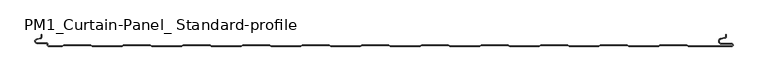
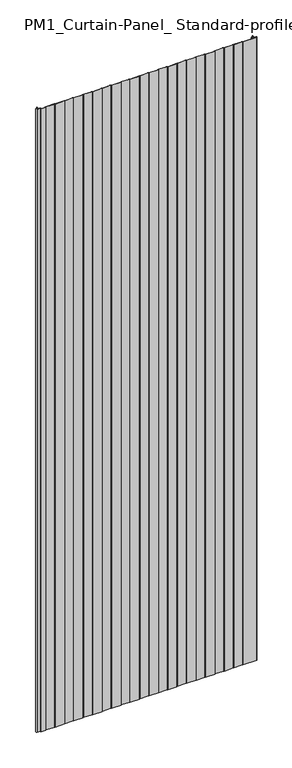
"""IFC4 building model written with IfcOpenShell, lengths in millimetres: plate geometry, PM1_Curtain-Panel_ Standard-profile : ACH_PM1_Acoustic-Sectioning-Panel_60M."""

import ifcopenshell
import ifcopenshell.guid

model = None  # the IFC model being written
_history = None  # IfcOwnerHistory: only IFC2X3 demands one
_inside = {}  # id of a spatial element -> (the spatial element, [elements in it])
_under = {}  # id of a project, library or spatial element -> (it, [spatial elements below it])
_declared = {}  # id of a project -> (the project, [libraries it declares])
_typed = {}  # id of a type object -> (the type object, [elements of that type])
_made_of = {}  # id of a material, layer set ... -> (it, [elements and type objects made of it])


def new_model(schema):
    """Start an empty IFC model of exactly this schema.

    Asked for "IFC4X3", IfcOpenShell would pick the latest addendum, in which some entities
    have other attributes; the version numbers below select the first issue.
    IFC2X3 requires an IfcOwnerHistory on every rooted entity: one is made here for all.
    """
    global model, _history
    if schema == "IFC4X3":
        model = ifcopenshell.file(schema_version=(4, 3, 0, 0))
    else:
        model = ifcopenshell.file(schema=schema)
    _inside.clear()
    _under.clear()
    _declared.clear()
    _typed.clear()
    _made_of.clear()
    _history = None
    if model.schema == "IFC2X3":
        org = make("IfcOrganization", Name="unknown")
        user = make(
            "IfcPersonAndOrganization",
            ThePerson=make("IfcPerson", FamilyName="unknown"),
            TheOrganization=org,
        )
        app = make(
            "IfcApplication",
            ApplicationDeveloper=org,
            Version="unknown",
            ApplicationFullName="unknown",
            ApplicationIdentifier="unknown",
        )
        _history = make(
            "IfcOwnerHistory",
            OwningUser=user,
            OwningApplication=app,
            ChangeAction="ADDED",
            CreationDate=0,
        )
    return model


def make(cls, **values):
    """One entity of the class cls with the attributes given. An attribute that is None is left unset."""
    return model.create_entity(
        cls, **{name: value for name, value in values.items() if value is not None}
    )


def rooted(cls, **values):
    """An entity with a GlobalId (a new one), such as an element, a storey or a relation."""
    return make(cls, GlobalId=ifcopenshell.guid.new(), OwnerHistory=_history, **values)


def si_unit(unit_type, name, prefix=None):
    """IfcSIUnit, for example si_unit("LENGTHUNIT", "METRE", prefix="MILLI")."""
    return make("IfcSIUnit", UnitType=unit_type, Prefix=prefix, Name=name)


def assignment(units):
    """IfcUnitAssignment: the units of a project."""
    return None if units is None else make("IfcUnitAssignment", Units=units)


def point(xyz):
    """IfcCartesianPoint."""
    return None if xyz is None else make("IfcCartesianPoint", Coordinates=xyz)


def direction(xyz):
    """IfcDirection."""
    return None if xyz is None else make("IfcDirection", DirectionRatios=xyz)


def frame(location, z_axis=None, x_axis=None):
    """IfcAxis2Placement3D, a coordinate frame: its origin and axes. An axis left out is left unset."""
    return make(
        "IfcAxis2Placement3D",
        Location=point(location),
        Axis=direction(z_axis),
        RefDirection=direction(x_axis),
    )


def origin():
    """The frame at (0, 0, 0) with its axes left unset."""
    return frame((0.0, 0.0, 0.0))


def place(relative_to, where):
    """IfcLocalPlacement: puts the frame where relative to a parent placement (None: the world)."""
    return make(
        "IfcLocalPlacement", PlacementRelTo=relative_to, RelativePlacement=where
    )


def context(
    kind, dimensions, precision=None, world=None, true_north=None, identifier=None
):
    """IfcGeometricRepresentationContext, for example the 3D "Model" context."""
    return make(
        "IfcGeometricRepresentationContext",
        ContextIdentifier=identifier,
        ContextType=kind,
        CoordinateSpaceDimension=dimensions,
        Precision=precision,
        WorldCoordinateSystem=world,
        TrueNorth=true_north,
    )


def project(units=None, contexts=None):
    """IfcProject with its units and contexts."""
    return rooted(
        "IfcProject",
        Name="project",
        RepresentationContexts=contexts,
        UnitsInContext=assignment(units),
    )


def spatial(cls, under=None, at=None, **own):
    """A site, building, storey or space (cls), placed at a placement, below another one or the project."""
    s = rooted(cls, ObjectPlacement=at, **own)
    if under is not None:
        _under.setdefault(under.id(), (under, []))[1].append(s)
    return s


def polyline(points):
    """IfcPolyline through the points."""
    return make("IfcPolyline", Points=[point(p) for p in points])


def circle_curve(where, radius):
    """IfcCircle in the frame where."""
    return make("IfcCircle", Position=where, Radius=radius)


def shape(context_of_items, identifier, shape_type, items):
    """IfcShapeRepresentation: the items that make up one representation, for example the "Body"."""
    return make(
        "IfcShapeRepresentation",
        ContextOfItems=context_of_items,
        RepresentationIdentifier=identifier,
        RepresentationType=shape_type,
        Items=items,
    )


def source(mapping_origin, context_of_items, identifier, shape_type, items):
    """IfcRepresentationMap: a shape defined once, which mapped items show again and again."""
    return make(
        "IfcRepresentationMap",
        MappingOrigin=mapping_origin,
        MappedRepresentation=shape(context_of_items, identifier, shape_type, items),
    )


def transform(
    local_origin,
    x_axis=None,
    y_axis=None,
    z_axis=None,
    scale=None,
    scale2=None,
    scale3=None,
    uniform=True,
):
    """IfcCartesianTransformationOperator3D, or its non-uniform kind. x_axis, y_axis, z_axis: its Axis1, 2, 3."""
    if uniform:
        return make(
            "IfcCartesianTransformationOperator3D",
            Axis1=direction(x_axis),
            Axis2=direction(y_axis),
            LocalOrigin=point(local_origin),
            Scale=scale,
            Axis3=direction(z_axis),
        )
    return make(
        "IfcCartesianTransformationOperator3DnonUniform",
        Axis1=direction(x_axis),
        Axis2=direction(y_axis),
        LocalOrigin=point(local_origin),
        Scale=scale,
        Axis3=direction(z_axis),
        Scale2=scale2,
        Scale3=scale3,
    )


def mapped(mapping_source, mapping_target):
    """IfcMappedItem: shows the shape of a source again, moved by a transform."""
    return make(
        "IfcMappedItem", MappingSource=mapping_source, MappingTarget=mapping_target
    )


def made_of(thing, what):
    """Note that an element or type object is made of a material, layer set ...; save() writes the relation."""
    if what is not None:
        _made_of.setdefault(what.id(), (what, []))[1].append(thing)
    return thing


def element(
    cls,
    number,
    at=None,
    inside=None,
    cuts=None,
    type_object=None,
    material=None,
    context=None,
    identifier="Body",
    shape_type=None,
    held_by="IfcProductDefinitionShape",
    body=None,
    shapes=None,
    **own,
):
    """One element of the class cls, such as IfcWall. Its Tag is "e" and its number.

    at: its placement. inside: the storey or other place that contains it. cuts: it is an
    opening in that element (IfcRelVoidsElement). A single representation is given by context,
    identifier, shape_type and body (its items); several are given by shapes. held_by: the class
    of the entity that holds the representations. save() writes the other relations.
    """
    e = rooted(cls, Tag="e%d" % number, ObjectPlacement=at, **own)
    if body is not None:
        shapes = [shape(context, identifier, shape_type, body)]
    if shapes is not None:
        e.Representation = make(held_by, Representations=shapes)
    if inside is not None:
        _inside.setdefault(inside.id(), (inside, []))[1].append(e)
    if cuts is not None:
        rooted(
            "IfcRelVoidsElement", RelatingBuildingElement=cuts, RelatedOpeningElement=e
        )
    if type_object is not None:
        _typed.setdefault(type_object.id(), (type_object, []))[1].append(e)
    return made_of(e, material)


def aggregate(whole, parts):
    """IfcRelAggregates: a whole, such as a stair, and the parts it consists of."""
    return rooted("IfcRelAggregates", RelatingObject=whole, RelatedObjects=parts)


def save(model, path):
    """Write the relations noted so far, then the file.

    IfcRelAggregates (storeys below a building ...), IfcRelContainedInSpatialStructure (elements
    in a storey), IfcRelDefinesByType, IfcRelAssociatesMaterial and IfcRelDeclares: one each for
    every whole, place, type object, material and project.
    """
    for whole, parts in _under.values():
        aggregate(whole, parts)
    for where, things in _inside.values():
        rooted(
            "IfcRelContainedInSpatialStructure",
            RelatedElements=things,
            RelatingStructure=where,
        )
    for kind, things in _typed.values():
        rooted("IfcRelDefinesByType", RelatedObjects=things, RelatingType=kind)
    for what, things in _made_of.values():
        rooted("IfcRelAssociatesMaterial", RelatedObjects=things, RelatingMaterial=what)
    for by, libraries in _declared.values():
        rooted("IfcRelDeclares", RelatingContext=by, RelatedDefinitions=libraries)
    model.write(path)


def plane_surface(at):
    """IfcPlane: the flat surface through the origin of the frame at, square to its z axis."""
    return make("IfcPlane", Position=at)


def cylinder_surface(at, radius):
    """IfcCylindricalSurface: all points at the distance radius from the z axis of the frame at."""
    return make("IfcCylindricalSurface", Position=at, Radius=radius)


def revolved_surface(curve, axis_point, axis_direction):
    """IfcSurfaceOfRevolution: the curve turned about the line through axis_point along axis_direction."""
    return make(
        "IfcSurfaceOfRevolution",
        SweptCurve=make("IfcArbitraryOpenProfileDef", ProfileType="CURVE", Curve=curve),
        AxisPosition=make("IfcAxis1Placement", Location=point(axis_point), Axis=direction(axis_direction)),
    )


def advanced_brep(points, edges, surfaces, faces):
    """IfcAdvancedBrep: a solid bounded by faces that lie on surfaces and meet in shared edges.

    An edge is (start, end): straight between two places in points (the first is 0);
    or (start, end, curve); or (start, end, curve, False) where it runs against its curve.
    A face is (place in surfaces, loops), or (place, loops, False) where it looks against
    its surface's normal. A loop lists edges by number (the first is 1), with a minus sign
    where the edge is run from its end to its start. The first loop is the outer one.
    """
    corners = [point(p) for p in points]
    vertices = [make("IfcVertexPoint", VertexGeometry=c) for c in corners]
    made = []
    for start, end, *more in edges:
        made.append(
            make(
                "IfcEdgeCurve",
                EdgeStart=vertices[start],
                EdgeEnd=vertices[end],
                EdgeGeometry=more[0] if more else make("IfcPolyline", Points=[corners[start], corners[end]]),
                SameSense=more[1] if len(more) > 1 else True,
            )
        )
    hull = []
    for where, loops, *sense in faces:
        bounds = []
        for j, loop in enumerate(loops):
            ring = [make("IfcOrientedEdge", EdgeElement=made[abs(k) - 1], Orientation=k > 0) for k in loop]
            bounds.append(
                make(
                    "IfcFaceOuterBound" if j == 0 else "IfcFaceBound",
                    Bound=make("IfcEdgeLoop", EdgeList=ring),
                    Orientation=True,
                )
            )
        hull.append(make("IfcAdvancedFace", Bounds=bounds, FaceSurface=surfaces[where], SameSense=sense[0] if sense else True))
    return make("IfcAdvancedBrep", Outer=make("IfcClosedShell", CfsFaces=hull))


def pm1_curtain_panel_standard_profile_1bd4c047(model_context):
    return source(origin(), model_context, "Body", "AdvancedBrep", [
        advanced_brep(
        [(-562.4, -60.0, 3500.0), (-539.3999999, -60.0, 3500.0), (-536.8019223, -58.5, 3500.0), (-492.0019247, -58.5, 3500.0), (-489.4038471, -60.0, 3500.0), (-439.3999999, -60.0, 3500.0), (-436.8019223, -58.5, 3500.0), (-392.0019247, -58.5, 3500.0), (-389.4038471, -60.0, 3500.0), (-339.3999999, -60.0, 3500.0), (-336.8019223, -58.5, 3500.0), (-292.0019247, -58.5, 3500.0), (-289.4038471, -60.0, 3500.0), (-239.3999999, -60.0, 3500.0), (-236.8019223, -58.5, 3500.0), (-192.0019247, -58.5, 3500.0), (-189.4038471, -60.0, 3500.0), (-139.3999999, -60.0, 3500.0), (-136.8019223, -58.5, 3500.0), (-92.0019247, -58.5, 3500.0), (-89.4038471, -60.0, 3500.0), (-39.3999999, -60.0, 3500.0), (-36.8019223, -58.5, 3500.0), (7.9980753, -58.5, 3500.0), (10.5961529, -60.0, 3500.0), (60.6000001, -60.0, 3500.0), (63.1980777, -58.5, 3500.0), (107.9980753, -58.5, 3500.0), (110.5961529, -60.0, 3500.0), (160.6000001, -60.0, 3500.0), (163.1980777, -58.5, 3500.0), (207.9980753, -58.5, 3500.0), (210.5961529, -60.0, 3500.0), (260.6000001, -60.0, 3500.0), (263.1980777, -58.5, 3500.0), (307.9980753, -58.5, 3500.0), (310.5961529, -60.0, 3500.0), (360.6000001, -60.0, 3500.0), (363.1980777, -58.5, 3500.0), (407.9980753, -58.5, 3500.0), (410.5961529, -60.0, 3500.0), (460.6000001, -60.0, 3500.0), (463.1980777, -58.5, 3500.0), (507.9980753, -58.5, 3500.0), (510.5961529, -60.0, 3500.0), (583.1, -60.0, 3500.0), (585.6, -57.5, 3500.0), (583.1, -55.0, 3500.0), (566.1, -55.0, 3500.0), (565.4054075, -47.060769, 3500.0), (571.8514851, -45.924152, 3500.0), (574.0, -43.363652, 3500.0), (574.0, -40.0, 3500.0), (573.2, -40.0, 3500.0), (573.2, -43.363652, 3500.0), (571.7125666, -45.136306, 3500.0), (565.266489, -46.2729229, 3500.0), (566.1, -55.8, 3500.0), (583.1, -55.8, 3500.0), (583.1, -59.2, 3500.0), (510.8105122, -59.2, 3500.0), (508.2124346, -57.7, 3500.0), (462.9837184, -57.7, 3500.0), (460.3856408, -59.2, 3500.0), (410.8105122, -59.2, 3500.0), (408.2124346, -57.7, 3500.0), (362.9837184, -57.7, 3500.0), (360.3856408, -59.2, 3500.0), (310.8105122, -59.2, 3500.0), (308.2124346, -57.7, 3500.0), (262.9837184, -57.7, 3500.0), (260.3856408, -59.2, 3500.0), (210.8105122, -59.2, 3500.0), (208.2124346, -57.7, 3500.0), (162.9837184, -57.7, 3500.0), (160.3856408, -59.2, 3500.0), (110.8105122, -59.2, 3500.0), (108.2124346, -57.7, 3500.0), (62.9837184, -57.7, 3500.0), (60.3856408, -59.2, 3500.0), (10.8105122, -59.2, 3500.0), (8.2124346, -57.7, 3500.0), (-37.0162816, -57.7, 3500.0), (-39.6143592, -59.2, 3500.0), (-89.1894878, -59.2, 3500.0), (-91.7875654, -57.7, 3500.0), (-137.0162816, -57.7, 3500.0), (-139.6143592, -59.2, 3500.0), (-189.1894878, -59.2, 3500.0), (-191.7875654, -57.7, 3500.0), (-237.0162816, -57.7, 3500.0), (-239.6143592, -59.2, 3500.0), (-289.1894878, -59.2, 3500.0), (-291.7875654, -57.7, 3500.0), (-337.0162816, -57.7, 3500.0), (-339.6143592, -59.2, 3500.0), (-389.1894878, -59.2, 3500.0), (-391.7875654, -57.7, 3500.0), (-437.0162816, -57.7, 3500.0), (-439.6143592, -59.2, 3500.0), (-489.1894878, -59.2, 3500.0), (-491.7875654, -57.7, 3500.0), (-537.0162816, -57.7, 3500.0), (-539.6143592, -59.2, 3500.0), (-562.4, -59.2, 3500.0), (-563.6, -58.0, 3500.0), (-563.6, -56.6, 3500.0), (-566.4, -53.8, 3500.0), (-581.9, -53.8, 3500.0), (-582.529863, -48.2717638, 3500.0), (-576.370137, -46.849679, 3500.0), (-574.2, -44.121443, 3500.0), (-574.2, -40.0, 3500.0), (-575.0, -40.0, 3500.0), (-575.0, -44.121443, 3500.0), (-576.5500978, -46.0701831, 3500.0), (-582.7098239, -47.492268, 3500.0), (-581.9, -54.6, 3500.0), (-566.4, -54.6, 3500.0), (-564.4, -56.6, 3500.0), (-564.4, -58.0, 3500.0), (-562.4, -60.0, 0.0), (-564.4, -58.0, 0.0), (-564.4, -56.6, 0.0), (-566.4, -54.6, 0.0), (-581.9, -54.6, 0.0), (-582.7098239, -47.4922678, 0.0), (-576.5500979, -46.070183, 0.0), (-575.0, -44.121443, 0.0), (-575.0, -40.0, 0.0), (-574.2, -40.0, 0.0), (-574.2, -44.121443, 0.0), (-576.370137, -46.8496792, 0.0), (-582.529863, -48.271764, 0.0), (-581.9, -53.8, 0.0), (-566.4, -53.8, 0.0), (-563.6, -56.6, 0.0), (-563.6, -58.0, 0.0), (-562.4, -59.2, 0.0), (-539.6143592, -59.2, 0.0), (-537.0162816, -57.7, 0.0), (-491.7875654, -57.7, 0.0), (-489.1894878, -59.2, 0.0), (-439.6143592, -59.2, 0.0), (-437.0162816, -57.7, 0.0), (-391.7875654, -57.7, 0.0), (-389.1894878, -59.2, 0.0), (-339.6143592, -59.2, 0.0), (-337.0162816, -57.7, 0.0), (-291.7875654, -57.7, 0.0), (-289.1894878, -59.2, 0.0), (-239.6143592, -59.2, 0.0), (-237.0162816, -57.7, 0.0), (-191.7875654, -57.7, 0.0), (-189.1894878, -59.2, 0.0), (-139.6143592, -59.2, 0.0), (-137.0162816, -57.7, 0.0), (-91.7875654, -57.7, 0.0), (-89.1894878, -59.2, 0.0), (-39.6143592, -59.2, 0.0), (-37.0162816, -57.7, 0.0), (8.2124346, -57.7, 0.0), (10.8105122, -59.2, 0.0), (60.3856408, -59.2, 0.0), (62.9837184, -57.7, 0.0), (108.2124346, -57.7, 0.0), (110.8105122, -59.2, 0.0), (160.3856408, -59.2, 0.0), (162.9837184, -57.7, 0.0), (208.2124346, -57.7, 0.0), (210.8105122, -59.2, 0.0), (260.3856408, -59.2, 0.0), (262.9837184, -57.7, 0.0), (308.2124346, -57.7, 0.0), (310.8105122, -59.2, 0.0), (360.3856408, -59.2, 0.0), (362.9837184, -57.7, 0.0), (408.2124346, -57.7, 0.0), (410.8105122, -59.2, 0.0), (460.3856408, -59.2, 0.0), (462.9837184, -57.7, 0.0), (508.2124346, -57.7, 0.0), (510.8105122, -59.2, 0.0), (583.1, -59.2, 0.0), (583.1, -55.8, 0.0), (566.1, -55.8, 0.0), (565.266489, -46.2729227, 0.0), (571.7125666, -45.1363058, 0.0), (573.2, -43.363652, 0.0), (573.2, -40.0, 0.0), (574.0, -40.0, 0.0), (574.0, -43.363652, 0.0), (571.8514851, -45.9241522, 0.0), (565.4054075, -47.0607691, 0.0), (566.1, -55.0, 0.0), (583.1, -55.0, 0.0), (585.6, -57.5, 0.0), (583.1, -60.0, 0.0), (510.5961529, -60.0, 0.0), (507.9980753, -58.5, 0.0), (463.1980777, -58.5, 0.0), (460.6000001, -60.0, 0.0), (410.5961529, -60.0, 0.0), (407.9980753, -58.5, 0.0), (363.1980777, -58.5, 0.0), (360.6000001, -60.0, 0.0), (310.5961529, -60.0, 0.0), (307.9980753, -58.5, 0.0), (263.1980777, -58.5, 0.0), (260.6000001, -60.0, 0.0), (210.5961529, -60.0, 0.0), (207.9980753, -58.5, 0.0), (163.1980777, -58.5, 0.0), (160.6000001, -60.0, 0.0), (110.5961529, -60.0, 0.0), (107.9980753, -58.5, 0.0), (63.1980777, -58.5, 0.0), (60.6000001, -60.0, 0.0), (10.5961529, -60.0, 0.0), (7.9980753, -58.5, 0.0), (-36.8019223, -58.5, 0.0), (-39.3999999, -60.0, 0.0), (-89.4038471, -60.0, 0.0), (-92.0019247, -58.5, 0.0), (-136.8019223, -58.5, 0.0), (-139.3999999, -60.0, 0.0), (-189.4038471, -60.0, 0.0), (-192.0019247, -58.5, 0.0), (-236.8019223, -58.5, 0.0), (-239.3999999, -60.0, 0.0), (-289.4038471, -60.0, 0.0), (-292.0019247, -58.5, 0.0), (-336.8019223, -58.5, 0.0), (-339.3999999, -60.0, 0.0), (-389.4038471, -60.0, 0.0), (-392.0019247, -58.5, 0.0), (-436.8019223, -58.5, 0.0), (-439.3999999, -60.0, 0.0), (-489.4038471, -60.0, 0.0), (-492.0019247, -58.5, 0.0), (-536.8019223, -58.5, 0.0), (-539.3999999, -60.0, 0.0)],
        [
            (0, 1),
            (1, 2),
            (2, 3),
            (3, 4),
            (4, 5),
            (5, 6),
            (6, 7),
            (7, 8),
            (8, 9),
            (9, 10),
            (10, 11),
            (11, 12),
            (12, 13),
            (13, 14),
            (14, 15),
            (15, 16),
            (16, 17),
            (17, 18),
            (18, 19),
            (19, 20),
            (20, 21),
            (21, 22),
            (22, 23),
            (23, 24),
            (24, 25),
            (25, 26),
            (26, 27),
            (27, 28),
            (28, 29),
            (29, 30),
            (30, 31),
            (31, 32),
            (32, 33),
            (33, 34),
            (34, 35),
            (35, 36),
            (36, 37),
            (37, 38),
            (38, 39),
            (39, 40),
            (40, 41),
            (41, 42),
            (42, 43),
            (43, 44),
            (44, 45),
            (45, 46, circle_curve(frame((583.1, -57.5, 3500.0), z_axis=(0.0, 0.0, 1.0), x_axis=(1.0, 0.0, 0.0)), 2.5)),
            (46, 47, circle_curve(frame((583.1, -57.5, 3500.0), z_axis=(0.0, 0.0, 1.0), x_axis=(1.0, 0.0, 0.0)), 2.5)),
            (47, 48),
            (48, 49, circle_curve(frame((566.1, -51.0, 3500.0), z_axis=(0.0, 0.0, -1.0), x_axis=(1.0, 0.0, 0.0)), 4.0)),
            (49, 50),
            (50, 51, circle_curve(frame((571.4, -43.363652, 3500.0), z_axis=(0.0, 0.0, 1.0), x_axis=(1.0, 0.0, 0.0)), 2.6)),
            (51, 52),
            (52, 53),
            (53, 54),
            (54, 55, circle_curve(frame((571.4, -43.363652, 3500.0), z_axis=(0.0, 0.0, -1.0), x_axis=(1.0, 0.0, 0.0)), 1.8)),
            (55, 56),
            (56, 57, circle_curve(frame((566.1, -51.0, 3500.0), z_axis=(0.0, 0.0, 1.0), x_axis=(1.0, 0.0, 0.0)), 4.8)),
            (57, 58),
            (58, 59, circle_curve(frame((583.1, -57.5, 3500.0), z_axis=(0.0, 0.0, -1.0), x_axis=(1.0, 0.0, 0.0)), 1.7)),
            (59, 60),
            (60, 61),
            (61, 62),
            (62, 63),
            (63, 64),
            (64, 65),
            (65, 66),
            (66, 67),
            (67, 68),
            (68, 69),
            (69, 70),
            (70, 71),
            (71, 72),
            (72, 73),
            (73, 74),
            (74, 75),
            (75, 76),
            (76, 77),
            (77, 78),
            (78, 79),
            (79, 80),
            (80, 81),
            (81, 82),
            (82, 83),
            (83, 84),
            (84, 85),
            (85, 86),
            (86, 87),
            (87, 88),
            (88, 89),
            (89, 90),
            (90, 91),
            (91, 92),
            (92, 93),
            (93, 94),
            (94, 95),
            (95, 96),
            (96, 97),
            (97, 98),
            (98, 99),
            (99, 100),
            (100, 101),
            (101, 102),
            (102, 103),
            (103, 104),
            (104, 105, circle_curve(frame((-562.4, -58.0, 3500.0), z_axis=(0.0, 0.0, -1.0), x_axis=(1.0, 0.0, 0.0)), 1.2)),
            (105, 106),
            (106, 107, circle_curve(frame((-566.4, -56.6, 3500.0), z_axis=(0.0, 0.0, 1.0), x_axis=(1.0, 0.0, 0.0)), 2.8)),
            (107, 108),
            (108, 109, circle_curve(frame((-581.9, -51.0, 3500.0), z_axis=(0.0, 0.0, -1.0), x_axis=(1.0, 0.0, 0.0)), 2.8)),
            (109, 110),
            (110, 111, circle_curve(frame((-577.0, -44.121443, 3500.0), z_axis=(0.0, 0.0, 1.0), x_axis=(1.0, 0.0, 0.0)), 2.8)),
            (111, 112),
            (112, 113),
            (113, 114),
            (114, 115, circle_curve(frame((-577.0, -44.121443, 3500.0), z_axis=(0.0, 0.0, -1.0), x_axis=(1.0, 0.0, 0.0)), 2.0)),
            (115, 116),
            (116, 117, circle_curve(frame((-581.9, -51.0, 3500.0), z_axis=(0.0, 0.0, 1.0), x_axis=(1.0, 0.0, 0.0)), 3.6)),
            (117, 118),
            (118, 119, circle_curve(frame((-566.4, -56.6, 3500.0), z_axis=(0.0, 0.0, -1.0), x_axis=(1.0, 0.0, 0.0)), 2.0)),
            (119, 120),
            (120, 0, circle_curve(frame((-562.4, -58.0, 3500.0), z_axis=(0.0, 0.0, 1.0), x_axis=(1.0, 0.0, 0.0)), 2.0)),
            (121, 122, circle_curve(frame((-562.4, -58.0, 0.0), z_axis=(0.0, 0.0, -1.0), x_axis=(1.0, 0.0, 0.0)), 2.0)),
            (122, 123),
            (123, 124, circle_curve(frame((-566.4, -56.6, 0.0), z_axis=(0.0, 0.0, 1.0), x_axis=(1.0, 0.0, 0.0)), 2.0)),
            (124, 125),
            (125, 126, circle_curve(frame((-581.9, -51.0, 0.0), z_axis=(0.0, 0.0, -1.0), x_axis=(1.0, 0.0, 0.0)), 3.6)),
            (126, 127),
            (127, 128, circle_curve(frame((-577.0, -44.121443, 0.0), z_axis=(0.0, 0.0, 1.0), x_axis=(1.0, 0.0, 0.0)), 2.0)),
            (128, 129),
            (129, 130),
            (130, 131),
            (131, 132, circle_curve(frame((-577.0, -44.121443, 0.0), z_axis=(0.0, 0.0, -1.0), x_axis=(1.0, 0.0, 0.0)), 2.8)),
            (132, 133),
            (133, 134, circle_curve(frame((-581.9, -51.0, 0.0), z_axis=(0.0, 0.0, 1.0), x_axis=(1.0, 0.0, 0.0)), 2.8)),
            (134, 135),
            (135, 136, circle_curve(frame((-566.4, -56.6, 0.0), z_axis=(0.0, 0.0, -1.0), x_axis=(1.0, 0.0, 0.0)), 2.8)),
            (136, 137),
            (137, 138, circle_curve(frame((-562.4, -58.0, 0.0), z_axis=(0.0, 0.0, 1.0), x_axis=(1.0, 0.0, 0.0)), 1.2)),
            (138, 139),
            (139, 140),
            (140, 141),
            (141, 142),
            (142, 143),
            (143, 144),
            (144, 145),
            (145, 146),
            (146, 147),
            (147, 148),
            (148, 149),
            (149, 150),
            (150, 151),
            (151, 152),
            (152, 153),
            (153, 154),
            (154, 155),
            (155, 156),
            (156, 157),
            (157, 158),
            (158, 159),
            (159, 160),
            (160, 161),
            (161, 162),
            (162, 163),
            (163, 164),
            (164, 165),
            (165, 166),
            (166, 167),
            (167, 168),
            (168, 169),
            (169, 170),
            (170, 171),
            (171, 172),
            (172, 173),
            (173, 174),
            (174, 175),
            (175, 176),
            (176, 177),
            (177, 178),
            (178, 179),
            (179, 180),
            (180, 181),
            (181, 182),
            (182, 183),
            (183, 184, circle_curve(frame((583.1, -57.5, 0.0), z_axis=(0.0, 0.0, 1.0), x_axis=(1.0, 0.0, 0.0)), 1.7)),
            (184, 185),
            (185, 186, circle_curve(frame((566.1, -51.0, 0.0), z_axis=(0.0, 0.0, -1.0), x_axis=(1.0, 0.0, 0.0)), 4.8)),
            (186, 187),
            (187, 188, circle_curve(frame((571.4, -43.363652, 0.0), z_axis=(0.0, 0.0, 1.0), x_axis=(1.0, 0.0, 0.0)), 1.8)),
            (188, 189),
            (189, 190),
            (190, 191),
            (191, 192, circle_curve(frame((571.4, -43.363652, 0.0), z_axis=(0.0, 0.0, -1.0), x_axis=(1.0, 0.0, 0.0)), 2.6)),
            (192, 193),
            (193, 194, circle_curve(frame((566.1, -51.0, 0.0), z_axis=(0.0, 0.0, 1.0), x_axis=(1.0, 0.0, 0.0)), 4.0)),
            (194, 195),
            (195, 196, circle_curve(frame((583.1, -57.5, 0.0), z_axis=(0.0, 0.0, -1.0), x_axis=(1.0, 0.0, 0.0)), 2.5)),
            (196, 197, circle_curve(frame((583.1, -57.5, 0.0), z_axis=(0.0, 0.0, -1.0), x_axis=(1.0, 0.0, 0.0)), 2.5)),
            (197, 198),
            (198, 199),
            (199, 200),
            (200, 201),
            (201, 202),
            (202, 203),
            (203, 204),
            (204, 205),
            (205, 206),
            (206, 207),
            (207, 208),
            (208, 209),
            (209, 210),
            (210, 211),
            (211, 212),
            (212, 213),
            (213, 214),
            (214, 215),
            (215, 216),
            (216, 217),
            (217, 218),
            (218, 219),
            (219, 220),
            (220, 221),
            (221, 222),
            (222, 223),
            (223, 224),
            (224, 225),
            (225, 226),
            (226, 227),
            (227, 228),
            (228, 229),
            (229, 230),
            (230, 231),
            (231, 232),
            (232, 233),
            (233, 234),
            (234, 235),
            (235, 236),
            (236, 237),
            (237, 238),
            (238, 239),
            (239, 240),
            (240, 241),
            (241, 121),
            (0, 121),
            (241, 1),
            (240, 2),
            (239, 3),
            (238, 4),
            (237, 5),
            (236, 6),
            (235, 7),
            (234, 8),
            (233, 9),
            (232, 10),
            (231, 11),
            (230, 12),
            (229, 13),
            (228, 14),
            (227, 15),
            (226, 16),
            (225, 17),
            (224, 18),
            (223, 19),
            (222, 20),
            (221, 21),
            (220, 22),
            (219, 23),
            (218, 24),
            (217, 25),
            (216, 26),
            (215, 27),
            (214, 28),
            (213, 29),
            (212, 30),
            (211, 31),
            (210, 32),
            (209, 33),
            (208, 34),
            (207, 35),
            (206, 36),
            (205, 37),
            (204, 38),
            (203, 39),
            (202, 40),
            (201, 41),
            (200, 42),
            (199, 43),
            (198, 44),
            (197, 45),
            (195, 47),
            (194, 48),
            (193, 49),
            (192, 50),
            (191, 51),
            (190, 52),
            (189, 53),
            (188, 54),
            (187, 55),
            (186, 56),
            (185, 57),
            (184, 58),
            (183, 59),
            (182, 60),
            (181, 61),
            (180, 62),
            (179, 63),
            (178, 64),
            (177, 65),
            (176, 66),
            (175, 67),
            (174, 68),
            (173, 69),
            (172, 70),
            (171, 71),
            (170, 72),
            (169, 73),
            (168, 74),
            (167, 75),
            (166, 76),
            (165, 77),
            (164, 78),
            (163, 79),
            (162, 80),
            (161, 81),
            (160, 82),
            (159, 83),
            (158, 84),
            (157, 85),
            (156, 86),
            (155, 87),
            (154, 88),
            (153, 89),
            (152, 90),
            (151, 91),
            (150, 92),
            (149, 93),
            (148, 94),
            (147, 95),
            (146, 96),
            (145, 97),
            (144, 98),
            (143, 99),
            (142, 100),
            (141, 101),
            (140, 102),
            (139, 103),
            (138, 104),
            (137, 105),
            (136, 106),
            (135, 107),
            (134, 108),
            (133, 109),
            (132, 110),
            (131, 111),
            (130, 112),
            (129, 113),
            (128, 114),
            (127, 115),
            (126, 116),
            (125, 117),
            (124, 118),
            (123, 119),
            (122, 120),
        ],
        [
            plane_surface(frame((-575.0, -60.0, 3500.0), z_axis=(0.0, 0.0, 1.0), x_axis=(0.0, 1.0, 0.0))),
            plane_surface(frame((-575.0, -60.0, 0.0), z_axis=(0.0, 0.0, -1.0), x_axis=(0.0, 1.0, 0.0))),
            plane_surface(frame((-562.4, -60.0, 3500.0), z_axis=(0.0, -1.0, 0.0), x_axis=(0.0, 0.0, -1.0))),
            plane_surface(frame((-539.3999999, -60.0, 3500.0), z_axis=(0.49999979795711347, -0.8660255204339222, 0.0), x_axis=(0.0, 0.0, -1.0))),
            plane_surface(frame((-536.8019223, -58.5, 3500.0), z_axis=(0.0, -1.0, 0.0), x_axis=(0.0, 0.0, -1.0))),
            plane_surface(frame((-492.0019247, -58.5, 3500.0), z_axis=(-0.49999979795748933, -0.8660255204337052, 0.0), x_axis=(0.0, 0.0, -1.0))),
            plane_surface(frame((-489.4038471, -60.0, 3500.0), z_axis=(0.0, -1.0, 0.0), x_axis=(0.0, 0.0, -1.0))),
            plane_surface(frame((-439.3999999, -60.0, 3500.0), z_axis=(0.49999979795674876, -0.8660255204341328, 0.0), x_axis=(0.0, 0.0, -1.0))),
            plane_surface(frame((-436.8019223, -58.5, 3500.0), z_axis=(0.0, -1.0, 0.0), x_axis=(0.0, 0.0, -1.0))),
            plane_surface(frame((-392.0019247, -58.5, 3500.0), z_axis=(-0.4999997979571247, -0.8660255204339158, 0.0), x_axis=(0.0, 0.0, -1.0))),
            plane_surface(frame((-389.4038471, -60.0, 3500.0), z_axis=(0.0, -1.0, 0.0), x_axis=(0.0, 0.0, -1.0))),
            plane_surface(frame((-339.3999999, -60.0, 3500.0), z_axis=(0.49999979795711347, -0.8660255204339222, 0.0), x_axis=(0.0, 0.0, -1.0))),
            plane_surface(frame((-336.8019223, -58.5, 3500.0), z_axis=(0.0, -1.0, 0.0), x_axis=(0.0, 0.0, -1.0))),
            plane_surface(frame((-292.0019247, -58.5, 3500.0), z_axis=(-0.4999997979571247, -0.8660255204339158, 0.0), x_axis=(0.0, 0.0, -1.0))),
            plane_surface(frame((-289.4038471, -60.0, 3500.0), z_axis=(0.0, -1.0, 0.0), x_axis=(0.0, 0.0, -1.0))),
            plane_surface(frame((-239.3999999, -60.0, 3500.0), z_axis=(0.49999979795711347, -0.8660255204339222, 0.0), x_axis=(0.0, 0.0, -1.0))),
            plane_surface(frame((-236.8019223, -58.5, 3500.0), z_axis=(0.0, -1.0, 0.0), x_axis=(0.0, 0.0, -1.0))),
            plane_surface(frame((-192.0019247, -58.5, 3500.0), z_axis=(-0.49999979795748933, -0.8660255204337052, 0.0), x_axis=(0.0, 0.0, -1.0))),
            plane_surface(frame((-189.4038471, -60.0, 3500.0), z_axis=(0.0, -1.0, 0.0), x_axis=(0.0, 0.0, -1.0))),
            plane_surface(frame((-139.3999999, -60.0, 3500.0), z_axis=(0.49999979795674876, -0.8660255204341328, 0.0), x_axis=(0.0, 0.0, -1.0))),
            plane_surface(frame((-136.8019223, -58.5, 3500.0), z_axis=(0.0, -1.0, 0.0), x_axis=(0.0, 0.0, -1.0))),
            plane_surface(frame((-92.0019247, -58.5, 3500.0), z_axis=(-0.4999997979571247, -0.8660255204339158, 0.0), x_axis=(0.0, 0.0, -1.0))),
            plane_surface(frame((-89.4038471, -60.0, 3500.0), z_axis=(0.0, -1.0, 0.0), x_axis=(0.0, 0.0, -1.0))),
            plane_surface(frame((-39.3999999, -60.0, 3500.0), z_axis=(0.49999979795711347, -0.8660255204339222, 0.0), x_axis=(0.0, 0.0, -1.0))),
            plane_surface(frame((-36.8019223, -58.5, 3500.0), z_axis=(0.0, -1.0, 0.0), x_axis=(0.0, 0.0, -1.0))),
            plane_surface(frame((7.9980753, -58.5, 3500.0), z_axis=(-0.4999997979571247, -0.8660255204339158, 0.0), x_axis=(0.0, 0.0, -1.0))),
            plane_surface(frame((10.5961529, -60.0, 3500.0), z_axis=(0.0, -1.0, 0.0), x_axis=(0.0, 0.0, -1.0))),
            plane_surface(frame((60.6000001, -60.0, 3500.0), z_axis=(0.49999979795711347, -0.8660255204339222, 0.0), x_axis=(0.0, 0.0, -1.0))),
            plane_surface(frame((63.1980777, -58.5, 3500.0), z_axis=(0.0, -1.0, 0.0), x_axis=(0.0, 0.0, -1.0))),
            plane_surface(frame((107.9980753, -58.5, 3500.0), z_axis=(-0.49999979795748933, -0.8660255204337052, 0.0), x_axis=(0.0, 0.0, -1.0))),
            plane_surface(frame((110.5961529, -60.0, 3500.0), z_axis=(0.0, -1.0, 0.0), x_axis=(0.0, 0.0, -1.0))),
            plane_surface(frame((160.6000001, -60.0, 3500.0), z_axis=(0.49999979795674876, -0.8660255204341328, 0.0), x_axis=(0.0, 0.0, -1.0))),
            plane_surface(frame((163.1980777, -58.5, 3500.0), z_axis=(0.0, -1.0, 0.0), x_axis=(0.0, 0.0, -1.0))),
            plane_surface(frame((207.9980753, -58.5, 3500.0), z_axis=(-0.4999997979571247, -0.8660255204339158, 0.0), x_axis=(0.0, 0.0, -1.0))),
            plane_surface(frame((210.5961529, -60.0, 3500.0), z_axis=(0.0, -1.0, 0.0), x_axis=(0.0, 0.0, -1.0))),
            plane_surface(frame((260.6000001, -60.0, 3500.0), z_axis=(0.49999979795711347, -0.8660255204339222, 0.0), x_axis=(0.0, 0.0, -1.0))),
            plane_surface(frame((263.1980777, -58.5, 3500.0), z_axis=(0.0, -1.0, 0.0), x_axis=(0.0, 0.0, -1.0))),
            plane_surface(frame((307.9980753, -58.5, 3500.0), z_axis=(-0.4999997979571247, -0.8660255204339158, 0.0), x_axis=(0.0, 0.0, -1.0))),
            plane_surface(frame((310.5961529, -60.0, 3500.0), z_axis=(0.0, -1.0, 0.0), x_axis=(0.0, 0.0, -1.0))),
            plane_surface(frame((360.6000001, -60.0, 3500.0), z_axis=(0.49999979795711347, -0.8660255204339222, 0.0), x_axis=(0.0, 0.0, -1.0))),
            plane_surface(frame((363.1980777, -58.5, 3500.0), z_axis=(0.0, -1.0, 0.0), x_axis=(0.0, 0.0, -1.0))),
            plane_surface(frame((407.9980753, -58.5, 3500.0), z_axis=(-0.49999979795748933, -0.8660255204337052, 0.0), x_axis=(0.0, 0.0, -1.0))),
            plane_surface(frame((410.5961529, -60.0, 3500.0), z_axis=(0.0, -1.0, 0.0), x_axis=(0.0, 0.0, -1.0))),
            plane_surface(frame((460.6000001, -60.0, 3500.0), z_axis=(0.49999979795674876, -0.8660255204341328, 0.0), x_axis=(0.0, 0.0, -1.0))),
            plane_surface(frame((463.1980777, -58.5, 3500.0), z_axis=(0.0, -1.0, 0.0), x_axis=(0.0, 0.0, -1.0))),
            plane_surface(frame((507.9980753, -58.5, 3500.0), z_axis=(-0.4999997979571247, -0.8660255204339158, 0.0), x_axis=(0.0, 0.0, -1.0))),
            plane_surface(frame((560.890897, -60.0, 3500.0), z_axis=(0.0, -1.0, 0.0), x_axis=(0.0, 0.0, -1.0))),
            cylinder_surface(frame((583.1, -57.5, 3500.0), z_axis=(0.0, 0.0, 1.0), x_axis=(1.0, 0.0, 0.0)), 2.5),
            plane_surface(frame((583.1, -55.0, 3500.0), z_axis=(0.0, 1.0, 0.0), x_axis=(0.0, 0.0, -1.0))),
            revolved_surface(polyline([(570.1, -51.0, 0.0), (570.1, -51.0, 3500.0)]), (566.1, -51.0, 3500.0), (0.0, 0.0, -1.0)),
            plane_surface(frame((565.4054075, -47.0607691, 3500.0), z_axis=(0.17364813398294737, -0.9848077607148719, 0.0), x_axis=(0.0, 0.0, -1.0))),
            cylinder_surface(frame((571.4, -43.363652, 3500.0), z_axis=(0.0, 0.0, 1.0), x_axis=(1.0, 0.0, 0.0)), 2.6),
            plane_surface(frame((574.0, -43.363652, 3500.0), z_axis=(1.0, 0.0, 0.0), x_axis=(0.0, 0.0, -1.0))),
            plane_surface(frame((574.0, -40.0, 3500.0), z_axis=(0.0, 1.0, 0.0), x_axis=(0.0, 0.0, -1.0))),
            plane_surface(frame((573.2, -40.0, 3500.0), z_axis=(-1.0, 0.0, 0.0), x_axis=(0.0, 0.0, -1.0))),
            revolved_surface(polyline([(573.1999999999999, -43.363652, 0.0), (573.1999999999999, -43.363652, 3500.0)]), (571.4, -43.363652, 3500.0), (0.0, 0.0, -1.0)),
            plane_surface(frame((571.7125666, -45.1363058, 3500.0), z_axis=(-0.17364813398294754, 0.9848077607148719, 0.0), x_axis=(0.0, 0.0, -1.0))),
            cylinder_surface(frame((566.1, -51.0, 3500.0), z_axis=(0.0, 0.0, 1.0), x_axis=(1.0, 0.0, 0.0)), 4.8),
            plane_surface(frame((566.1, -55.8, 3500.0), z_axis=(0.0, -1.0, 0.0), x_axis=(0.0, 0.0, -1.0))),
            revolved_surface(polyline([(584.8000000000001, -57.5, 0.0), (584.8000000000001, -57.5, 3500.0)]), (583.1, -57.5, 3500.0), (0.0, 0.0, -1.0)),
            plane_surface(frame((560.890897, -59.2, 3500.0), z_axis=(0.0, 1.0, 0.0), x_axis=(0.0, 0.0, -1.0))),
            plane_surface(frame((510.8105122, -59.2, 3500.0), z_axis=(0.49999979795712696, 0.8660255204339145, 0.0), x_axis=(0.0, 0.0, -1.0))),
            plane_surface(frame((508.2124346, -57.7, 3500.0), z_axis=(0.0, 1.0, 0.0), x_axis=(0.0, 0.0, -1.0))),
            plane_surface(frame((462.9837184, -57.7, 3500.0), z_axis=(-0.4999997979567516, 0.8660255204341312, 0.0), x_axis=(0.0, 0.0, -1.0))),
            plane_surface(frame((460.3856408, -59.2, 3500.0), z_axis=(0.0, 1.0, 0.0), x_axis=(0.0, 0.0, -1.0))),
            plane_surface(frame((410.8105122, -59.2, 3500.0), z_axis=(0.4999997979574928, 0.8660255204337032, 0.0), x_axis=(0.0, 0.0, -1.0))),
            plane_surface(frame((408.2124346, -57.7, 3500.0), z_axis=(0.0, 1.0, 0.0), x_axis=(0.0, 0.0, -1.0))),
            plane_surface(frame((362.9837184, -57.7, 3500.0), z_axis=(-0.49999979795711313, 0.8660255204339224, 0.0), x_axis=(0.0, 0.0, -1.0))),
            plane_surface(frame((360.3856408, -59.2, 3500.0), z_axis=(0.0, 1.0, 0.0), x_axis=(0.0, 0.0, -1.0))),
            plane_surface(frame((310.8105122, -59.2, 3500.0), z_axis=(0.4999997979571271, 0.8660255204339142, 0.0), x_axis=(0.0, 0.0, -1.0))),
            plane_surface(frame((308.2124346, -57.7, 3500.0), z_axis=(0.0, 1.0, 0.0), x_axis=(0.0, 0.0, -1.0))),
            plane_surface(frame((262.9837184, -57.7, 3500.0), z_axis=(-0.49999979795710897, 0.8660255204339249, 0.0), x_axis=(0.0, 0.0, -1.0))),
            plane_surface(frame((260.3856408, -59.2, 3500.0), z_axis=(0.0, 1.0, 0.0), x_axis=(0.0, 0.0, -1.0))),
            plane_surface(frame((210.8105122, -59.2, 3500.0), z_axis=(0.4999997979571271, 0.8660255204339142, 0.0), x_axis=(0.0, 0.0, -1.0))),
            plane_surface(frame((208.2124346, -57.7, 3500.0), z_axis=(0.0, 1.0, 0.0), x_axis=(0.0, 0.0, -1.0))),
            plane_surface(frame((162.9837184, -57.7, 3500.0), z_axis=(-0.4999997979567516, 0.8660255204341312, 0.0), x_axis=(0.0, 0.0, -1.0))),
            plane_surface(frame((160.3856408, -59.2, 3500.0), z_axis=(0.0, 1.0, 0.0), x_axis=(0.0, 0.0, -1.0))),
            plane_surface(frame((110.8105122, -59.2, 3500.0), z_axis=(0.49999979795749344, 0.8660255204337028, 0.0), x_axis=(0.0, 0.0, -1.0))),
            plane_surface(frame((108.2124346, -57.7, 3500.0), z_axis=(0.0, 1.0, 0.0), x_axis=(0.0, 0.0, -1.0))),
            plane_surface(frame((62.9837184, -57.7, 3500.0), z_axis=(-0.49999979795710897, 0.8660255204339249, 0.0), x_axis=(0.0, 0.0, -1.0))),
            plane_surface(frame((60.3856408, -59.2, 3500.0), z_axis=(0.0, 1.0, 0.0), x_axis=(0.0, 0.0, -1.0))),
            plane_surface(frame((10.8105122, -59.2, 3500.0), z_axis=(0.4999997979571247, 0.8660255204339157, 0.0), x_axis=(0.0, 0.0, -1.0))),
            plane_surface(frame((8.2124346, -57.7, 3500.0), z_axis=(0.0, 1.0, 0.0), x_axis=(0.0, 0.0, -1.0))),
            plane_surface(frame((-37.0162816, -57.7, 3500.0), z_axis=(-0.49999979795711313, 0.8660255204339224, 0.0), x_axis=(0.0, 0.0, -1.0))),
            plane_surface(frame((-39.6143592, -59.2, 3500.0), z_axis=(0.0, 1.0, 0.0), x_axis=(0.0, 0.0, -1.0))),
            plane_surface(frame((-89.1894878, -59.2, 3500.0), z_axis=(0.4999997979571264, 0.8660255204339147, 0.0), x_axis=(0.0, 0.0, -1.0))),
            plane_surface(frame((-91.7875654, -57.7, 3500.0), z_axis=(0.0, 1.0, 0.0), x_axis=(0.0, 0.0, -1.0))),
            plane_surface(frame((-137.0162816, -57.7, 3500.0), z_axis=(-0.49999979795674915, 0.8660255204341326, 0.0), x_axis=(0.0, 0.0, -1.0))),
            plane_surface(frame((-139.6143592, -59.2, 3500.0), z_axis=(0.0, 1.0, 0.0), x_axis=(0.0, 0.0, -1.0))),
            plane_surface(frame((-189.1894878, -59.2, 3500.0), z_axis=(0.49999979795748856, 0.8660255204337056, 0.0), x_axis=(0.0, 0.0, -1.0))),
            plane_surface(frame((-191.7875654, -57.7, 3500.0), z_axis=(0.0, 1.0, 0.0), x_axis=(0.0, 0.0, -1.0))),
            plane_surface(frame((-237.0162816, -57.7, 3500.0), z_axis=(-0.4999997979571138, 0.866025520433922, 0.0), x_axis=(0.0, 0.0, -1.0))),
            plane_surface(frame((-239.6143592, -59.2, 3500.0), z_axis=(0.0, 1.0, 0.0), x_axis=(0.0, 0.0, -1.0))),
            plane_surface(frame((-289.1894878, -59.2, 3500.0), z_axis=(0.49999979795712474, 0.8660255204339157, 0.0), x_axis=(0.0, 0.0, -1.0))),
            plane_surface(frame((-291.7875654, -57.7, 3500.0), z_axis=(0.0, 1.0, 0.0), x_axis=(0.0, 0.0, -1.0))),
            plane_surface(frame((-337.0162816, -57.7, 3500.0), z_axis=(-0.49999979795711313, 0.8660255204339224, 0.0), x_axis=(0.0, 0.0, -1.0))),
            plane_surface(frame((-339.6143592, -59.2, 3500.0), z_axis=(0.0, 1.0, 0.0), x_axis=(0.0, 0.0, -1.0))),
            plane_surface(frame((-389.1894878, -59.2, 3500.0), z_axis=(0.49999979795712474, 0.8660255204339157, 0.0), x_axis=(0.0, 0.0, -1.0))),
            plane_surface(frame((-391.7875654, -57.7, 3500.0), z_axis=(0.0, 1.0, 0.0), x_axis=(0.0, 0.0, -1.0))),
            plane_surface(frame((-437.0162816, -57.7, 3500.0), z_axis=(-0.49999979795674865, 0.8660255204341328, 0.0), x_axis=(0.0, 0.0, -1.0))),
            plane_surface(frame((-439.6143592, -59.2, 3500.0), z_axis=(0.0, 1.0, 0.0), x_axis=(0.0, 0.0, -1.0))),
            plane_surface(frame((-489.1894878, -59.2, 3500.0), z_axis=(0.49999979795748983, 0.866025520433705, 0.0), x_axis=(0.0, 0.0, -1.0))),
            plane_surface(frame((-491.7875654, -57.7, 3500.0), z_axis=(0.0, 1.0, 0.0), x_axis=(0.0, 0.0, -1.0))),
            plane_surface(frame((-537.0162816, -57.7, 3500.0), z_axis=(-0.49999979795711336, 0.8660255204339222, 0.0), x_axis=(0.0, 0.0, -1.0))),
            plane_surface(frame((-539.6143592, -59.2, 3500.0), z_axis=(0.0, 1.0, 0.0), x_axis=(0.0, 0.0, -1.0))),
            revolved_surface(polyline([(-561.1999999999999, -58.0, 0.0), (-561.1999999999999, -58.0, 3500.0)]), (-562.4, -58.0, 3500.0), (0.0, 0.0, -1.0)),
            plane_surface(frame((-563.6, -58.0, 3500.0), z_axis=(1.0, 0.0, 0.0), x_axis=(0.0, 0.0, -1.0))),
            cylinder_surface(frame((-566.4, -56.6, 3500.0), z_axis=(0.0, 0.0, 1.0), x_axis=(1.0, 0.0, 0.0)), 2.8),
            plane_surface(frame((-566.4, -53.8, 3500.0), z_axis=(0.0, 1.0, 0.0), x_axis=(0.0, 0.0, -1.0))),
            revolved_surface(polyline([(-579.1, -51.0, 0.0), (-579.1, -51.0, 3500.0)]), (-581.9, -51.0, 3500.0), (0.0, 0.0, -1.0)),
            plane_surface(frame((-582.529863, -48.271764, 3500.0), z_axis=(0.2249510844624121, -0.9743700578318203, 0.0), x_axis=(0.0, 0.0, -1.0))),
            cylinder_surface(frame((-577.0, -44.121443, 3500.0), z_axis=(0.0, 0.0, 1.0), x_axis=(1.0, 0.0, 0.0)), 2.8),
            plane_surface(frame((-574.2, -44.121443, 3500.0), z_axis=(1.0, 0.0, 0.0), x_axis=(0.0, 0.0, -1.0))),
            plane_surface(frame((-574.2, -40.0, 3500.0), z_axis=(0.0, 1.0, 0.0), x_axis=(0.0, 0.0, -1.0))),
            plane_surface(frame((-575.0, -40.0, 3500.0), z_axis=(-1.0, 0.0, 0.0), x_axis=(0.0, 0.0, -1.0))),
            revolved_surface(polyline([(-575.0, -44.121443, 0.0), (-575.0, -44.121443, 3500.0)]), (-577.0, -44.121443, 3500.0), (0.0, 0.0, -1.0)),
            plane_surface(frame((-576.5500979, -46.070183, 3500.0), z_axis=(-0.22495108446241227, 0.9743700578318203, 0.0), x_axis=(0.0, 0.0, -1.0))),
            cylinder_surface(frame((-581.9, -51.0, 3500.0), z_axis=(0.0, 0.0, 1.0), x_axis=(1.0, 0.0, 0.0)), 3.6),
            plane_surface(frame((-581.9, -54.6, 3500.0), z_axis=(0.0, -1.0, 0.0), x_axis=(0.0, 0.0, -1.0))),
            revolved_surface(polyline([(-564.4, -56.6, 0.0), (-564.4, -56.6, 3500.0)]), (-566.4, -56.6, 3500.0), (0.0, 0.0, -1.0)),
            plane_surface(frame((-564.4, -56.6, 3500.0), z_axis=(-1.0, 0.0, 0.0), x_axis=(0.0, 0.0, -1.0))),
            cylinder_surface(frame((-562.4, -58.0, 3500.0), z_axis=(0.0, 0.0, 1.0), x_axis=(1.0, 0.0, 0.0)), 2.0),
        ],
        [
            (0, [[1, 2, 3, 4, 5, 6, 7, 8, 9, 10, 11, 12, 13, 14, 15, 16, 17, 18, 19, 20, 21, 22, 23, 24, 25, 26, 27, 28, 29, 30, 31, 32, 33, 34, 35, 36, 37, 38, 39, 40, 41, 42, 43, 44, 45, 46, 47, 48, 49, 50, 51, 52, 53, 54, 55, 56, 57, 58, 59, 60, 61, 62, 63, 64, 65, 66, 67, 68, 69, 70, 71, 72, 73, 74, 75, 76, 77, 78, 79, 80, 81, 82, 83, 84, 85, 86, 87, 88, 89, 90, 91, 92, 93, 94, 95, 96, 97, 98, 99, 100, 101, 102, 103, 104, 105, 106, 107, 108, 109, 110, 111, 112, 113, 114, 115, 116, 117, 118, 119, 120, 121]]),
            (1, [[122, 123, 124, 125, 126, 127, 128, 129, 130, 131, 132, 133, 134, 135, 136, 137, 138, 139, 140, 141, 142, 143, 144, 145, 146, 147, 148, 149, 150, 151, 152, 153, 154, 155, 156, 157, 158, 159, 160, 161, 162, 163, 164, 165, 166, 167, 168, 169, 170, 171, 172, 173, 174, 175, 176, 177, 178, 179, 180, 181, 182, 183, 184, 185, 186, 187, 188, 189, 190, 191, 192, 193, 194, 195, 196, 197, 198, 199, 200, 201, 202, 203, 204, 205, 206, 207, 208, 209, 210, 211, 212, 213, 214, 215, 216, 217, 218, 219, 220, 221, 222, 223, 224, 225, 226, 227, 228, 229, 230, 231, 232, 233, 234, 235, 236, 237, 238, 239, 240, 241, 242]]),
            (2, [[-1, 243, -242, 244]]),
            (3, [[-2, -244, -241, 245]]),
            (4, [[-3, -245, -240, 246]]),
            (5, [[-4, -246, -239, 247]]),
            (6, [[-5, -247, -238, 248]]),
            (7, [[-6, -248, -237, 249]]),
            (8, [[-7, -249, -236, 250]]),
            (9, [[-8, -250, -235, 251]]),
            (10, [[-9, -251, -234, 252]]),
            (11, [[-10, -252, -233, 253]]),
            (12, [[-11, -253, -232, 254]]),
            (13, [[-12, -254, -231, 255]]),
            (14, [[-13, -255, -230, 256]]),
            (15, [[-14, -256, -229, 257]]),
            (16, [[-15, -257, -228, 258]]),
            (17, [[-16, -258, -227, 259]]),
            (18, [[-17, -259, -226, 260]]),
            (19, [[-18, -260, -225, 261]]),
            (20, [[-19, -261, -224, 262]]),
            (21, [[-20, -262, -223, 263]]),
            (22, [[-21, -263, -222, 264]]),
            (23, [[-22, -264, -221, 265]]),
            (24, [[-23, -265, -220, 266]]),
            (25, [[-24, -266, -219, 267]]),
            (26, [[-25, -267, -218, 268]]),
            (27, [[-26, -268, -217, 269]]),
            (28, [[-27, -269, -216, 270]]),
            (29, [[-28, -270, -215, 271]]),
            (30, [[-29, -271, -214, 272]]),
            (31, [[-30, -272, -213, 273]]),
            (32, [[-31, -273, -212, 274]]),
            (33, [[-32, -274, -211, 275]]),
            (34, [[-33, -275, -210, 276]]),
            (35, [[-34, -276, -209, 277]]),
            (36, [[-35, -277, -208, 278]]),
            (37, [[-36, -278, -207, 279]]),
            (38, [[-37, -279, -206, 280]]),
            (39, [[-38, -280, -205, 281]]),
            (40, [[-39, -281, -204, 282]]),
            (41, [[-40, -282, -203, 283]]),
            (42, [[-41, -283, -202, 284]]),
            (43, [[-42, -284, -201, 285]]),
            (44, [[-43, -285, -200, 286]]),
            (45, [[-44, -286, -199, 287]]),
            (46, [[-45, -287, -198, 288]]),
            (47, [[-288, -197, -196, 289, -47, -46]]),
            (48, [[-48, -289, -195, 290]]),
            (49, [[-49, -290, -194, 291]]),
            (50, [[-50, -291, -193, 292]]),
            (51, [[-51, -292, -192, 293]]),
            (52, [[-52, -293, -191, 294]]),
            (53, [[-53, -294, -190, 295]]),
            (54, [[-54, -295, -189, 296]]),
            (55, [[-55, -296, -188, 297]]),
            (56, [[-56, -297, -187, 298]]),
            (57, [[-57, -298, -186, 299]]),
            (58, [[-58, -299, -185, 300]]),
            (59, [[-59, -300, -184, 301]]),
            (60, [[-60, -301, -183, 302]]),
            (61, [[-61, -302, -182, 303]]),
            (62, [[-62, -303, -181, 304]]),
            (63, [[-63, -304, -180, 305]]),
            (64, [[-64, -305, -179, 306]]),
            (65, [[-65, -306, -178, 307]]),
            (66, [[-66, -307, -177, 308]]),
            (67, [[-67, -308, -176, 309]]),
            (68, [[-68, -309, -175, 310]]),
            (69, [[-69, -310, -174, 311]]),
            (70, [[-70, -311, -173, 312]]),
            (71, [[-71, -312, -172, 313]]),
            (72, [[-72, -313, -171, 314]]),
            (73, [[-73, -314, -170, 315]]),
            (74, [[-74, -315, -169, 316]]),
            (75, [[-75, -316, -168, 317]]),
            (76, [[-76, -317, -167, 318]]),
            (77, [[-77, -318, -166, 319]]),
            (78, [[-78, -319, -165, 320]]),
            (79, [[-79, -320, -164, 321]]),
            (80, [[-80, -321, -163, 322]]),
            (81, [[-81, -322, -162, 323]]),
            (82, [[-82, -323, -161, 324]]),
            (83, [[-83, -324, -160, 325]]),
            (84, [[-84, -325, -159, 326]]),
            (85, [[-85, -326, -158, 327]]),
            (86, [[-86, -327, -157, 328]]),
            (87, [[-87, -328, -156, 329]]),
            (88, [[-88, -329, -155, 330]]),
            (89, [[-89, -330, -154, 331]]),
            (90, [[-90, -331, -153, 332]]),
            (91, [[-91, -332, -152, 333]]),
            (92, [[-92, -333, -151, 334]]),
            (93, [[-93, -334, -150, 335]]),
            (94, [[-94, -335, -149, 336]]),
            (95, [[-95, -336, -148, 337]]),
            (96, [[-96, -337, -147, 338]]),
            (97, [[-97, -338, -146, 339]]),
            (98, [[-98, -339, -145, 340]]),
            (99, [[-99, -340, -144, 341]]),
            (100, [[-100, -341, -143, 342]]),
            (101, [[-101, -342, -142, 343]]),
            (102, [[-102, -343, -141, 344]]),
            (103, [[-103, -344, -140, 345]]),
            (104, [[-104, -345, -139, 346]]),
            (105, [[-105, -346, -138, 347]]),
            (106, [[-106, -347, -137, 348]]),
            (107, [[-107, -348, -136, 349]]),
            (108, [[-108, -349, -135, 350]]),
            (109, [[-109, -350, -134, 351]]),
            (110, [[-110, -351, -133, 352]]),
            (111, [[-111, -352, -132, 353]]),
            (112, [[-112, -353, -131, 354]]),
            (113, [[-113, -354, -130, 355]]),
            (114, [[-114, -355, -129, 356]]),
            (115, [[-115, -356, -128, 357]]),
            (116, [[-116, -357, -127, 358]]),
            (117, [[-117, -358, -126, 359]]),
            (118, [[-118, -359, -125, 360]]),
            (119, [[-119, -360, -124, 361]]),
            (120, [[-120, -361, -123, 362]]),
            (121, [[-121, -362, -122, -243]]),
        ],
    ),
    ])


if __name__ == "__main__":
    model = new_model("IFC4")
    model_context = context("Model", 3, world=origin())
    ifc_project = project(units=[si_unit("LENGTHUNIT", "METRE", prefix="MILLI")], contexts=[model_context])
    site = spatial("IfcSite", under=ifc_project)
    building = spatial("IfcBuilding", under=site)
    placement = place(None, origin())
    pm1_curtain_panel_standard_profile_shape = pm1_curtain_panel_standard_profile_1bd4c047(model_context)
    element("IfcPlate", 1, ObjectType="PM1_Curtain-Panel_ Standard-profile : ACH_PM1_Acoustic-Sectioning-Panel_60M", at=placement, inside=building, context=model_context, shape_type="MappedRepresentation", body=[
        mapped(pm1_curtain_panel_standard_profile_shape, transform((0.0, 0.0, 0.0), x_axis=(1.0, 0.0, 0.0), y_axis=(0.0, 1.0, 0.0), z_axis=(0.0, 0.0, 1.0))),
    ])
    save(model, "model.ifc")
